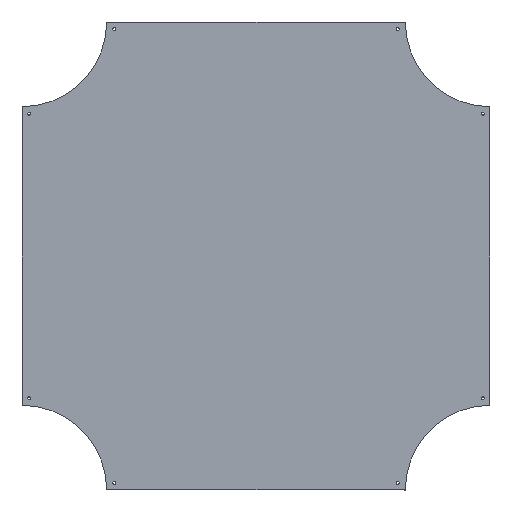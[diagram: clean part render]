
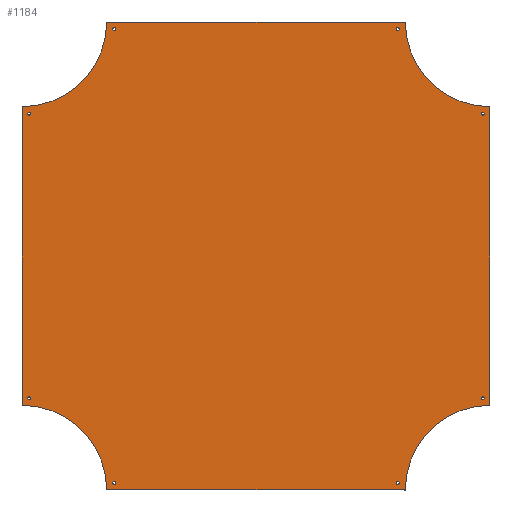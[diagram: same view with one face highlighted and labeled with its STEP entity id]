
A CAD part, top view. The second image highlights one B-rep face of the part: STEP entity #1184.
In plain terms, the highlighted planar face has unit normal (0, 0, 1).
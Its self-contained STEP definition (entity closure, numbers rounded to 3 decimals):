
#86=FACE_BOUND('',#177,.T.);
#87=FACE_BOUND('',#178,.T.);
#88=FACE_BOUND('',#179,.T.);
#89=FACE_BOUND('',#180,.T.);
#90=FACE_BOUND('',#181,.T.);
#91=FACE_BOUND('',#182,.T.);
#92=FACE_BOUND('',#183,.T.);
#93=FACE_BOUND('',#184,.T.);
#102=FACE_OUTER_BOUND('',#176,.T.);
#176=EDGE_LOOP('',(#810,#811,#812,#813,#814,#815,#816,#817));
#177=EDGE_LOOP('',(#818,#819));
#178=EDGE_LOOP('',(#820,#821));
#179=EDGE_LOOP('',(#822,#823));
#180=EDGE_LOOP('',(#824,#825));
#181=EDGE_LOOP('',(#826,#827));
#182=EDGE_LOOP('',(#828,#829));
#183=EDGE_LOOP('',(#830,#831));
#184=EDGE_LOOP('',(#832,#833));
#266=CIRCLE('',#1270,298.5);
#267=CIRCLE('',#1271,298.5);
#268=CIRCLE('',#1272,298.5);
#269=CIRCLE('',#1273,298.5);
#270=CIRCLE('',#1274,5.);
#271=CIRCLE('',#1275,5.);
#272=CIRCLE('',#1276,5.);
#273=CIRCLE('',#1277,5.);
#274=CIRCLE('',#1278,5.);
#275=CIRCLE('',#1279,5.);
#276=CIRCLE('',#1280,5.);
#277=CIRCLE('',#1281,5.);
#278=CIRCLE('',#1282,5.);
#279=CIRCLE('',#1283,5.);
#280=CIRCLE('',#1284,5.);
#281=CIRCLE('',#1285,5.);
#282=CIRCLE('',#1286,5.);
#283=CIRCLE('',#1287,5.);
#284=CIRCLE('',#1288,5.);
#285=CIRCLE('',#1289,5.);
#338=LINE('',#1839,#434);
#339=LINE('',#1843,#435);
#340=LINE('',#1847,#436);
#341=LINE('',#1851,#437);
#434=VECTOR('',#1430,304.8);
#435=VECTOR('',#1433,304.8);
#436=VECTOR('',#1436,304.8);
#437=VECTOR('',#1439,304.8);
#530=VERTEX_POINT('',#1837);
#531=VERTEX_POINT('',#1838);
#532=VERTEX_POINT('',#1840);
#533=VERTEX_POINT('',#1842);
#534=VERTEX_POINT('',#1844);
#535=VERTEX_POINT('',#1846);
#536=VERTEX_POINT('',#1848);
#537=VERTEX_POINT('',#1850);
#538=VERTEX_POINT('',#1853);
#539=VERTEX_POINT('',#1854);
#540=VERTEX_POINT('',#1857);
#541=VERTEX_POINT('',#1858);
#542=VERTEX_POINT('',#1861);
#543=VERTEX_POINT('',#1862);
#544=VERTEX_POINT('',#1865);
#545=VERTEX_POINT('',#1866);
#546=VERTEX_POINT('',#1869);
#547=VERTEX_POINT('',#1870);
#548=VERTEX_POINT('',#1873);
#549=VERTEX_POINT('',#1874);
#550=VERTEX_POINT('',#1877);
#551=VERTEX_POINT('',#1878);
#552=VERTEX_POINT('',#1881);
#553=VERTEX_POINT('',#1882);
#642=EDGE_CURVE('',#530,#531,#338,.T.);
#643=EDGE_CURVE('',#531,#532,#266,.T.);
#644=EDGE_CURVE('',#532,#533,#339,.T.);
#645=EDGE_CURVE('',#533,#534,#267,.T.);
#646=EDGE_CURVE('',#534,#535,#340,.T.);
#647=EDGE_CURVE('',#535,#536,#268,.T.);
#648=EDGE_CURVE('',#536,#537,#341,.T.);
#649=EDGE_CURVE('',#537,#530,#269,.T.);
#650=EDGE_CURVE('',#538,#539,#270,.T.);
#651=EDGE_CURVE('',#539,#538,#271,.T.);
#652=EDGE_CURVE('',#540,#541,#272,.T.);
#653=EDGE_CURVE('',#541,#540,#273,.T.);
#654=EDGE_CURVE('',#542,#543,#274,.T.);
#655=EDGE_CURVE('',#543,#542,#275,.T.);
#656=EDGE_CURVE('',#544,#545,#276,.T.);
#657=EDGE_CURVE('',#545,#544,#277,.T.);
#658=EDGE_CURVE('',#546,#547,#278,.T.);
#659=EDGE_CURVE('',#547,#546,#279,.T.);
#660=EDGE_CURVE('',#548,#549,#280,.T.);
#661=EDGE_CURVE('',#549,#548,#281,.T.);
#662=EDGE_CURVE('',#550,#551,#282,.T.);
#663=EDGE_CURVE('',#551,#550,#283,.T.);
#664=EDGE_CURVE('',#552,#553,#284,.T.);
#665=EDGE_CURVE('',#553,#552,#285,.T.);
#810=ORIENTED_EDGE('',*,*,#642,.T.);
#811=ORIENTED_EDGE('',*,*,#643,.T.);
#812=ORIENTED_EDGE('',*,*,#644,.T.);
#813=ORIENTED_EDGE('',*,*,#645,.T.);
#814=ORIENTED_EDGE('',*,*,#646,.T.);
#815=ORIENTED_EDGE('',*,*,#647,.T.);
#816=ORIENTED_EDGE('',*,*,#648,.T.);
#817=ORIENTED_EDGE('',*,*,#649,.T.);
#818=ORIENTED_EDGE('',*,*,#650,.T.);
#819=ORIENTED_EDGE('',*,*,#651,.T.);
#820=ORIENTED_EDGE('',*,*,#652,.T.);
#821=ORIENTED_EDGE('',*,*,#653,.T.);
#822=ORIENTED_EDGE('',*,*,#654,.T.);
#823=ORIENTED_EDGE('',*,*,#655,.T.);
#824=ORIENTED_EDGE('',*,*,#656,.T.);
#825=ORIENTED_EDGE('',*,*,#657,.T.);
#826=ORIENTED_EDGE('',*,*,#658,.T.);
#827=ORIENTED_EDGE('',*,*,#659,.T.);
#828=ORIENTED_EDGE('',*,*,#660,.T.);
#829=ORIENTED_EDGE('',*,*,#661,.T.);
#830=ORIENTED_EDGE('',*,*,#662,.T.);
#831=ORIENTED_EDGE('',*,*,#663,.T.);
#832=ORIENTED_EDGE('',*,*,#664,.T.);
#833=ORIENTED_EDGE('',*,*,#665,.T.);
#1146=PLANE('',#1269);
#1184=ADVANCED_FACE('',(#102,#86,#87,#88,#89,#90,#91,#92,#93),#1146,.T.);
#1269=AXIS2_PLACEMENT_3D('',#1836,#1428,#1429);
#1270=AXIS2_PLACEMENT_3D('',#1841,#1431,#1432);
#1271=AXIS2_PLACEMENT_3D('',#1845,#1434,#1435);
#1272=AXIS2_PLACEMENT_3D('',#1849,#1437,#1438);
#1273=AXIS2_PLACEMENT_3D('',#1852,#1440,#1441);
#1274=AXIS2_PLACEMENT_3D('',#1855,#1442,#1443);
#1275=AXIS2_PLACEMENT_3D('',#1856,#1444,#1445);
#1276=AXIS2_PLACEMENT_3D('',#1859,#1446,#1447);
#1277=AXIS2_PLACEMENT_3D('',#1860,#1448,#1449);
#1278=AXIS2_PLACEMENT_3D('',#1863,#1450,#1451);
#1279=AXIS2_PLACEMENT_3D('',#1864,#1452,#1453);
#1280=AXIS2_PLACEMENT_3D('',#1867,#1454,#1455);
#1281=AXIS2_PLACEMENT_3D('',#1868,#1456,#1457);
#1282=AXIS2_PLACEMENT_3D('',#1871,#1458,#1459);
#1283=AXIS2_PLACEMENT_3D('',#1872,#1460,#1461);
#1284=AXIS2_PLACEMENT_3D('',#1875,#1462,#1463);
#1285=AXIS2_PLACEMENT_3D('',#1876,#1464,#1465);
#1286=AXIS2_PLACEMENT_3D('',#1879,#1466,#1467);
#1287=AXIS2_PLACEMENT_3D('',#1880,#1468,#1469);
#1288=AXIS2_PLACEMENT_3D('',#1883,#1470,#1471);
#1289=AXIS2_PLACEMENT_3D('',#1884,#1472,#1473);
#1428=DIRECTION('center_axis',(0.,0.,1.));
#1429=DIRECTION('ref_axis',(0.,-1.,0.));
#1430=DIRECTION('',(0.,1.,0.));
#1431=DIRECTION('center_axis',(0.,0.,-1.));
#1432=DIRECTION('ref_axis',(1.,0.,0.));
#1433=DIRECTION('',(-1.,0.,0.));
#1434=DIRECTION('center_axis',(0.,0.,-1.));
#1435=DIRECTION('ref_axis',(1.,0.,0.));
#1436=DIRECTION('',(0.,-1.,0.));
#1437=DIRECTION('center_axis',(0.,0.,-1.));
#1438=DIRECTION('ref_axis',(1.,0.,0.));
#1439=DIRECTION('',(1.,0.,0.));
#1440=DIRECTION('center_axis',(0.,0.,-1.));
#1441=DIRECTION('ref_axis',(1.,0.,0.));
#1442=DIRECTION('center_axis',(0.,0.,-1.));
#1443=DIRECTION('ref_axis',(1.,0.,0.));
#1444=DIRECTION('center_axis',(0.,0.,-1.));
#1445=DIRECTION('ref_axis',(1.,0.,0.));
#1446=DIRECTION('center_axis',(0.,0.,-1.));
#1447=DIRECTION('ref_axis',(1.,0.,0.));
#1448=DIRECTION('center_axis',(0.,0.,-1.));
#1449=DIRECTION('ref_axis',(1.,0.,0.));
#1450=DIRECTION('center_axis',(0.,0.,-1.));
#1451=DIRECTION('ref_axis',(1.,0.,0.));
#1452=DIRECTION('center_axis',(0.,0.,-1.));
#1453=DIRECTION('ref_axis',(1.,0.,0.));
#1454=DIRECTION('center_axis',(0.,0.,-1.));
#1455=DIRECTION('ref_axis',(1.,0.,0.));
#1456=DIRECTION('center_axis',(0.,0.,-1.));
#1457=DIRECTION('ref_axis',(1.,0.,0.));
#1458=DIRECTION('center_axis',(0.,0.,-1.));
#1459=DIRECTION('ref_axis',(1.,0.,0.));
#1460=DIRECTION('center_axis',(0.,0.,-1.));
#1461=DIRECTION('ref_axis',(1.,0.,0.));
#1462=DIRECTION('center_axis',(0.,0.,-1.));
#1463=DIRECTION('ref_axis',(1.,0.,0.));
#1464=DIRECTION('center_axis',(0.,0.,-1.));
#1465=DIRECTION('ref_axis',(1.,0.,0.));
#1466=DIRECTION('center_axis',(0.,0.,-1.));
#1467=DIRECTION('ref_axis',(1.,0.,0.));
#1468=DIRECTION('center_axis',(0.,0.,-1.));
#1469=DIRECTION('ref_axis',(1.,0.,0.));
#1470=DIRECTION('center_axis',(0.,0.,-1.));
#1471=DIRECTION('ref_axis',(1.,0.,0.));
#1472=DIRECTION('center_axis',(0.,0.,-1.));
#1473=DIRECTION('ref_axis',(1.,0.,0.));
#1836=CARTESIAN_POINT('Origin',(-526.5,-825.,1.5));
#1837=CARTESIAN_POINT('',(825.,-526.5,1.5));
#1838=CARTESIAN_POINT('',(825.,526.5,1.5));
#1839=CARTESIAN_POINT('',(825.,-526.5,1.5));
#1840=CARTESIAN_POINT('',(526.5,825.,1.5));
#1841=CARTESIAN_POINT('Origin',(825.,825.,1.5));
#1842=CARTESIAN_POINT('',(-526.5,825.,1.5));
#1843=CARTESIAN_POINT('',(526.5,825.,1.5));
#1844=CARTESIAN_POINT('',(-825.,526.5,1.5));
#1845=CARTESIAN_POINT('Origin',(-825.,825.,1.5));
#1846=CARTESIAN_POINT('',(-825.,-526.5,1.5));
#1847=CARTESIAN_POINT('',(-825.,526.5,1.5));
#1848=CARTESIAN_POINT('',(-526.5,-825.,1.5));
#1849=CARTESIAN_POINT('Origin',(-825.,-825.,1.5));
#1850=CARTESIAN_POINT('',(526.5,-825.,1.5));
#1851=CARTESIAN_POINT('',(-526.5,-825.,1.5));
#1852=CARTESIAN_POINT('Origin',(825.,-825.,1.5));
#1853=CARTESIAN_POINT('',(-795.,501.5,1.5));
#1854=CARTESIAN_POINT('',(-805.,501.5,1.5));
#1855=CARTESIAN_POINT('Origin',(-800.,501.5,1.5));
#1856=CARTESIAN_POINT('Origin',(-800.,501.5,1.5));
#1857=CARTESIAN_POINT('',(-795.,-501.5,1.5));
#1858=CARTESIAN_POINT('',(-805.,-501.5,1.5));
#1859=CARTESIAN_POINT('Origin',(-800.,-501.5,1.5));
#1860=CARTESIAN_POINT('Origin',(-800.,-501.5,1.5));
#1861=CARTESIAN_POINT('',(505.,800.,1.5));
#1862=CARTESIAN_POINT('',(495.,800.,1.5));
#1863=CARTESIAN_POINT('Origin',(500.,800.,1.5));
#1864=CARTESIAN_POINT('Origin',(500.,800.,1.5));
#1865=CARTESIAN_POINT('',(-495.,800.,1.5));
#1866=CARTESIAN_POINT('',(-505.,800.,1.5));
#1867=CARTESIAN_POINT('Origin',(-500.,800.,1.5));
#1868=CARTESIAN_POINT('Origin',(-500.,800.,1.5));
#1869=CARTESIAN_POINT('',(805.,501.5,1.5));
#1870=CARTESIAN_POINT('',(795.,501.5,1.5));
#1871=CARTESIAN_POINT('Origin',(800.,501.5,1.5));
#1872=CARTESIAN_POINT('Origin',(800.,501.5,1.5));
#1873=CARTESIAN_POINT('',(805.,-501.5,1.5));
#1874=CARTESIAN_POINT('',(795.,-501.5,1.5));
#1875=CARTESIAN_POINT('Origin',(800.,-501.5,1.5));
#1876=CARTESIAN_POINT('Origin',(800.,-501.5,1.5));
#1877=CARTESIAN_POINT('',(-495.,-800.,1.5));
#1878=CARTESIAN_POINT('',(-505.,-800.,1.5));
#1879=CARTESIAN_POINT('Origin',(-500.,-800.,1.5));
#1880=CARTESIAN_POINT('Origin',(-500.,-800.,1.5));
#1881=CARTESIAN_POINT('',(505.,-800.,1.5));
#1882=CARTESIAN_POINT('',(495.,-800.,1.5));
#1883=CARTESIAN_POINT('Origin',(500.,-800.,1.5));
#1884=CARTESIAN_POINT('Origin',(500.,-800.,1.5));
